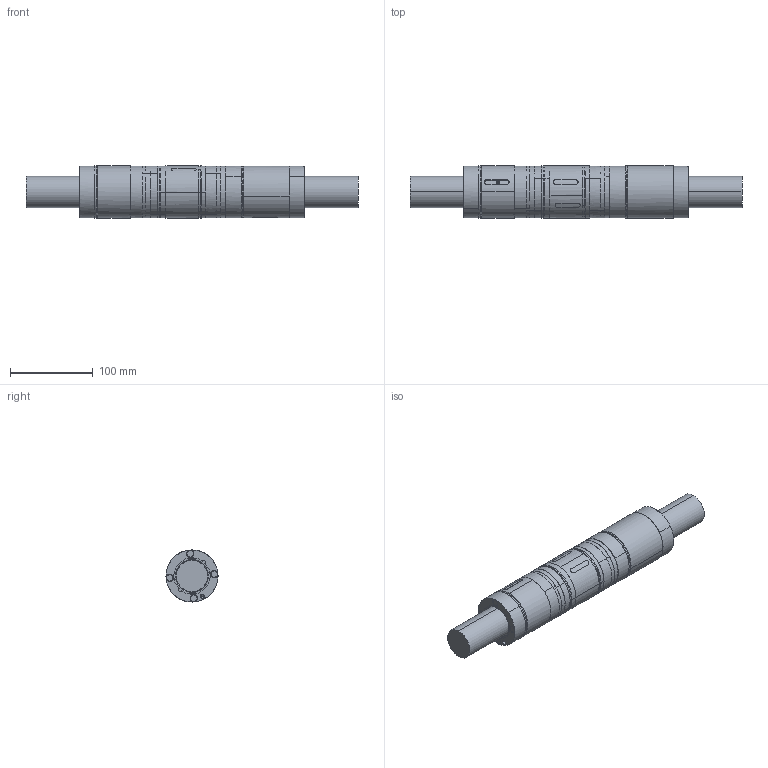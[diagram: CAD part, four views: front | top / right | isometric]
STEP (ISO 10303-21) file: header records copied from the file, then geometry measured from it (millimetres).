
FILE_DESCRIPTION(('Creo Elements/Direct Modeling STEP Export'),'2;1');
FILE_NAME('HSB-KGT-MM-4040RH-4g.stp','2026-07-03T12:07:05',(''),(''),'Creo Elements/Direct Modeling STEP processor for AP214 (Solid Model)','Creo Elements/Direct Modeling 20.1D 10-Oct-2020 (C) Parametric Technology GmbH','');
FILE_SCHEMA(('AUTOMOTIVE_DESIGN { 1 0 10303 214 1 1 1 1 }'));
Length unit declared in the file: millimetre
Products named in the file (6): KGS-4040RH-4g_28848; HSB-KGM-MM-4040-RH-4g_31887; HSB-KGT-MM-4040RH-4g; KGS-4020RH-2g_16637; HSB-KGM-MM-4020RH-2g_31886; HSB-KGT-MM-4020RH-2g
Assembly tree (4 placements, depth 2):
  HSB-KGT-MM-4040RH-4g
    HSB-KGM-MM-4040-RH-4g_31887
    KGS-4040RH-4g_28848
  HSB-KGT-MM-4020RH-2g
    HSB-KGM-MM-4020RH-2g_31886
    KGS-4020RH-2g_16637
Bounding box: 402 x 63 x 63 mm (x, y, z)
Volume: 1418984.4 mm3; surface area: 204615.4 mm2
Topology: 4 solids, 8 shells, 2084 faces, 5968 edges, 3974 vertices
Faces by surface type: plane 1896, cylinder 124, cone 56, torus 8
Entity records: 69101 total; most frequent: CARTESIAN_POINT 14776, ORIENTED_EDGE 11920, DIRECTION 10034, EDGE_CURVE 5960, VECTOR 5538, LINE 5538, VERTEX_POINT 3974, AXIS2_PLACEMENT_3D 2248
